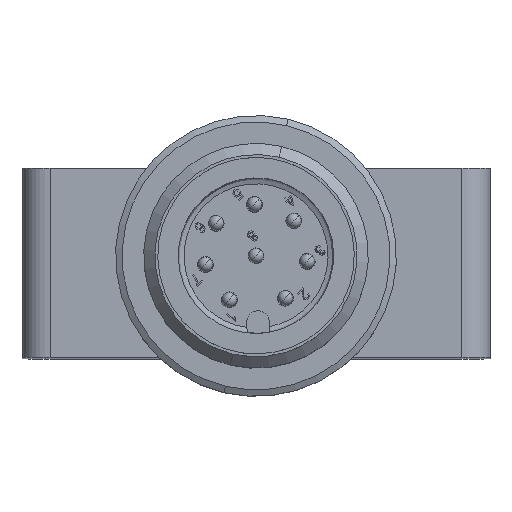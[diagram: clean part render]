
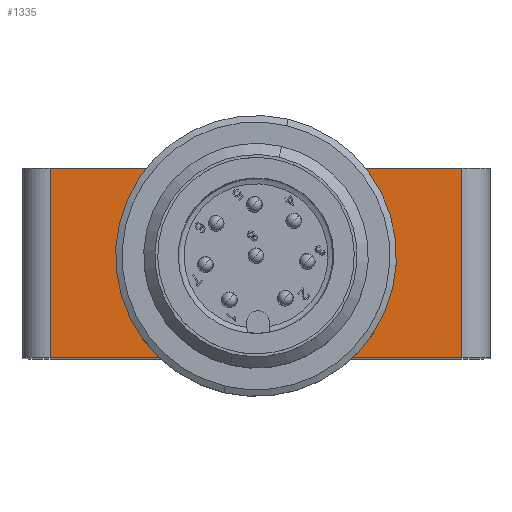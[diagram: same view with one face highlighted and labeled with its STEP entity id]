
A CAD part, top view. The second image highlights one B-rep face of the part: STEP entity #1335.
In plain terms, the highlighted planar face has unit normal (0, 0, 1).
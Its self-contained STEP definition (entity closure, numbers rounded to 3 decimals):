
#281=DIRECTION('',(0.,1.,0.));
#282=VECTOR('',#281,10.1);
#283=CARTESIAN_POINT('',(11.,-10.1,0.));
#284=LINE('',#283,#282);
#337=DIRECTION('',(0.,-1.,0.));
#338=VECTOR('',#337,10.1);
#339=CARTESIAN_POINT('',(-11.,0.,0.));
#340=LINE('',#339,#338);
#351=DIRECTION('',(1.,0.,0.));
#352=VECTOR('',#351,22.);
#353=CARTESIAN_POINT('',(-11.,0.,0.));
#354=LINE('',#353,#352);
#358=CARTESIAN_POINT('',(0.,-5.1,0.));
#359=DIRECTION('',(0.,0.,1.));
#360=DIRECTION('',(1.,0.,0.));
#361=AXIS2_PLACEMENT_3D('',#358,#359,#360);
#366=CARTESIAN_POINT('',(0.,-5.1,0.));
#367=DIRECTION('',(0.,0.,1.));
#368=DIRECTION('',(-1.,0.,0.));
#369=AXIS2_PLACEMENT_3D('',#366,#367,#368);
#427=DIRECTION('',(1.,0.,0.));
#428=VECTOR('',#427,22.);
#429=CARTESIAN_POINT('',(-11.,-10.1,0.));
#430=LINE('',#429,#428);
#1029=CARTESIAN_POINT('',(11.,0.,0.));
#1031=VERTEX_POINT('',#1029);
#1032=CARTESIAN_POINT('',(-11.,0.,0.));
#1033=VERTEX_POINT('',#1032);
#1058=CARTESIAN_POINT('',(11.,-10.1,0.));
#1059=VERTEX_POINT('',#1058);
#1070=CARTESIAN_POINT('',(-11.,-10.1,0.));
#1071=VERTEX_POINT('',#1070);
#1072=CARTESIAN_POINT('',(3.25,-5.1,0.));
#1073=CARTESIAN_POINT('',(-3.25,-5.1,0.));
#1074=VERTEX_POINT('',#1072);
#1075=VERTEX_POINT('',#1073);
#1317=CARTESIAN_POINT('',(12.5,0.,0.));
#1318=DIRECTION('',(0.,0.,1.));
#1319=DIRECTION('',(-1.,0.,0.));
#1320=AXIS2_PLACEMENT_3D('',#1317,#1318,#1319);
#1321=PLANE('',#1320);
#1322=ORIENTED_EDGE('',*,*,#1227,.F.);
#1324=ORIENTED_EDGE('',*,*,#1323,.F.);
#1325=ORIENTED_EDGE('',*,*,#1308,.F.);
#1326=ORIENTED_EDGE('',*,*,#1183,.T.);
#1327=EDGE_LOOP('',(#1322,#1324,#1325,#1326));
#1328=FACE_OUTER_BOUND('',#1327,.F.);
#1330=ORIENTED_EDGE('',*,*,#1329,.T.);
#1332=ORIENTED_EDGE('',*,*,#1331,.T.);
#1333=EDGE_LOOP('',(#1330,#1332));
#1334=FACE_BOUND('',#1333,.F.);
#362=CIRCLE('',#361,3.25);
#370=CIRCLE('',#369,3.25);
#1183=EDGE_CURVE('',#1033,#1031,#354,.T.);
#1227=EDGE_CURVE('',#1059,#1031,#284,.T.);
#1308=EDGE_CURVE('',#1033,#1071,#340,.T.);
#1323=EDGE_CURVE('',#1071,#1059,#430,.T.);
#1329=EDGE_CURVE('',#1074,#1075,#362,.T.);
#1331=EDGE_CURVE('',#1075,#1074,#370,.T.);
#1335=ADVANCED_FACE('',(#1328,#1334),#1321,.T.);
